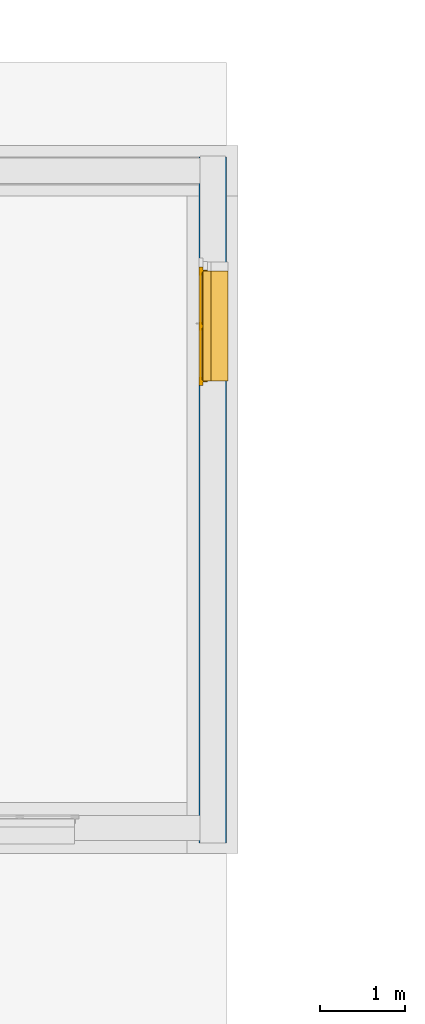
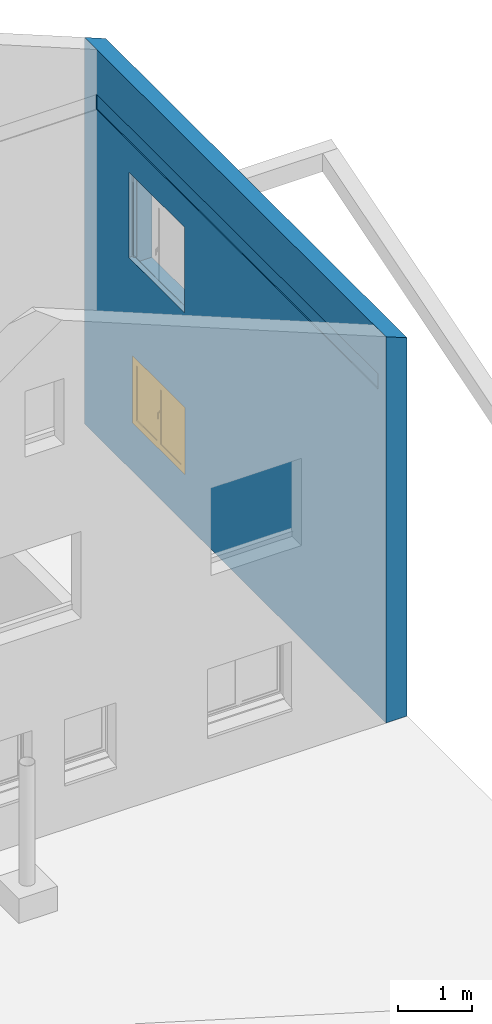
# One storey, part 5 of 20: 1 wall, 1 window, 3 openings.
"""IFC2X3 building model written with IfcOpenShell, lengths in metres."""

from ifc_helpers import new_model, entity, si_unit, converted_unit, derived_unit, direction, frame, frame_2d, origin, place, context, subcontext, project, spatial, polyline, rectangle, extrude, clip, bounded_halfspace, faceted_brep, source, transform, mapped, material, material_list, layer, layer_set, layer_usage, type_object, type_shapes, element, fill, save


model = new_model("IFC2X3")

# Units and contexts
model_context = context("Model", 3, precision=1e-05, world=origin(), true_north=direction((6.12303176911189e-17, 1.0)))
body_context = subcontext(model_context, "Body", "Model", "MODEL_VIEW")
ifc_project = project(units=[si_unit("LENGTHUNIT", "METRE"), si_unit("AREAUNIT", "SQUARE_METRE"), si_unit("VOLUMEUNIT", "CUBIC_METRE"), converted_unit("PLANEANGLEUNIT", "DEGREE", entity("IfcRatioMeasure", 0.0174532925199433), si_unit("PLANEANGLEUNIT", "RADIAN"), dimensions=[0, 0, 0, 0, 0, 0, 0]), si_unit("MASSUNIT", "GRAM", prefix="KILO"), derived_unit("MASSDENSITYUNIT", [(si_unit("MASSUNIT", "GRAM", prefix="KILO"), 1), (si_unit("LENGTHUNIT", "METRE"), -3)]), derived_unit("MOMENTOFINERTIAUNIT", [(si_unit("LENGTHUNIT", "METRE"), 4)]), si_unit("TIMEUNIT", "SECOND"), si_unit("FREQUENCYUNIT", "HERTZ"), si_unit("THERMODYNAMICTEMPERATUREUNIT", "DEGREE_CELSIUS"), derived_unit("THERMALTRANSMITTANCEUNIT", [(si_unit("MASSUNIT", "GRAM", prefix="KILO"), 1), (si_unit("THERMODYNAMICTEMPERATUREUNIT", "KELVIN"), -1), (si_unit("TIMEUNIT", "SECOND"), -3)]), derived_unit("VOLUMETRICFLOWRATEUNIT", [(si_unit("LENGTHUNIT", "METRE"), 3), (si_unit("TIMEUNIT", "SECOND"), -1)]), si_unit("ELECTRICCURRENTUNIT", "AMPERE"), si_unit("ELECTRICVOLTAGEUNIT", "VOLT"), si_unit("POWERUNIT", "WATT"), si_unit("FORCEUNIT", "NEWTON", prefix="KILO"), si_unit("ILLUMINANCEUNIT", "LUX"), si_unit("LUMINOUSFLUXUNIT", "LUMEN"), si_unit("LUMINOUSINTENSITYUNIT", "CANDELA"), derived_unit("USERDEFINED", [(si_unit("MASSUNIT", "GRAM", prefix="KILO"), -1), (si_unit("LENGTHUNIT", "METRE"), -2), (si_unit("TIMEUNIT", "SECOND"), 3), (si_unit("LUMINOUSFLUXUNIT", "LUMEN"), 1)]), derived_unit("LINEARVELOCITYUNIT", [(si_unit("LENGTHUNIT", "METRE"), 1), (si_unit("TIMEUNIT", "SECOND"), -1)]), si_unit("PRESSUREUNIT", "PASCAL"), derived_unit("USERDEFINED", [(si_unit("LENGTHUNIT", "METRE"), -2), (si_unit("MASSUNIT", "GRAM", prefix="KILO"), 1), (si_unit("TIMEUNIT", "SECOND"), -2)]), derived_unit("LINEARFORCEUNIT", [(si_unit("MASSUNIT", "GRAM", prefix="KILO"), 1), (si_unit("LENGTHUNIT", "METRE"), 1), (si_unit("TIMEUNIT", "SECOND"), -2), (si_unit("LENGTHUNIT", "METRE"), -1)]), derived_unit("PLANARFORCEUNIT", [(si_unit("MASSUNIT", "GRAM", prefix="KILO"), 1), (si_unit("LENGTHUNIT", "METRE"), 1), (si_unit("TIMEUNIT", "SECOND"), -2), (si_unit("LENGTHUNIT", "METRE"), -2)])], contexts=[model_context])

# Site, building, storey
site_placement = place(None, origin())
site = spatial("IfcSite", under=ifc_project, at=site_placement, Name="Surface", CompositionType="ELEMENT")
building_placement = place(site_placement, origin())
building = spatial("IfcBuilding", under=site, at=building_placement, CompositionType="ELEMENT")
storey_placement = place(building_placement, origin())
storey = spatial("IfcBuildingStorey", under=building, at=storey_placement, Name="Niveau rdc", CompositionType="ELEMENT", Elevation=-1.94916083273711e-14)

# Wall, openings, window
ifc_material_1 = material(Name="Maçonnerie - Isolant")
ifc_layer_1 = layer(ifc_material_1, 0.015)
ifc_material_2 = material(Name="Blocs briques monomur")
ifc_layer_2 = layer(ifc_material_2, 0.3)
ifc_layer_3 = layer(ifc_material_1, 0.015)
ifc_layer_set = layer_set([ifc_layer_1, ifc_layer_2, ifc_layer_3], Name="Mur de base:bloc monomur30")
ifc_layer_usage = layer_usage(ifc_layer_set, "AXIS2", "POSITIVE", -0.165)
wall_type = type_object("IfcWallType", Name="Mur de base:bloc monomur30", PredefinedType="STANDARD", material=ifc_layer_set)
wall_placement = place(storey_placement, frame((12.6193960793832, 7.33925810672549, 0.0), z_axis=(0.0, 0.0, 1.0), x_axis=(0.0, -1.0, 0.0)))
wall = element("IfcWallStandardCase", 1, at=wall_placement, inside=storey, type_object=wall_type, material=ifc_layer_usage, Name="Mur de base:bloc monomur30", ObjectType="Mur de base:bloc monomur30", context=body_context, shape_type="Clipping", body=[
    clip(extrude(rectangle(XDim=8.095, YDim=0.329999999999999, at=frame_2d((4.0475, -6.93889390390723e-17), x_axis=(-1.0, 0.0))), origin(), (0.0, 0.0, 1.0), 6.33642179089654), bounded_halfspace(frame((0.0, -0.165000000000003, 6.33642179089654), z_axis=(0.0, 0.374606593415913, 0.927183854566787), x_axis=(-1.0, 0.0, 0.0)), False, frame((0.0, -0.165000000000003, 6.33642179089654)), polyline([(0.0, 0.0), (0.33, 0.0), (3.94, 0.0), (4.14, 0.0), (7.765, 0.0), (8.095, 0.0), (8.095, 0.330000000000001), (0.0, 0.330000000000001), (0.0, 0.0)]))),
])
opening_1_placement = place(storey_placement, frame((12.6193960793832, 7.33925810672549, 0.0), z_axis=(0.0, 0.0, 1.0), x_axis=(0.0, -1.0, 0.0)))
element("IfcOpeningElement", 2, at=opening_1_placement, cuts=wall, Name="Mur de base:bloc monomur30:1", ObjectType="Opening", context=body_context, shape_type="SweptSolid", body=[
    extrude(rectangle(XDim=7.57500000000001, YDim=0.0150000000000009, at=frame_2d((0.0568749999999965, -0.00375000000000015), x_axis=(1.0, 0.0))), frame((4.159375, -0.161250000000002, 5.35000000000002), z_axis=(0.0, 0.0, 1.0), x_axis=(-1.0, 0.0, 0.0)), (0.0, 0.0, 1.0), 0.249999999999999),
])
opening_2_placement = place(wall_placement, frame((2.695, -0.500000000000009, 0.72), z_axis=(0.0, 0.0, 1.0), x_axis=(0.0, 1.0, 0.0)))
opening_2 = element("IfcOpeningElement", 3, at=opening_2_placement, cuts=wall, Name="Mur de base:bloc monomur30", ObjectType="Opening", context=body_context, shape_type="Brep", body=[
    faceted_brep([(0.41499999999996, 1.35, 0.0800000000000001), (0.435000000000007, 1.35, 0.0800000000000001), (0.435000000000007, 1.35, 1.13), (1.0, 1.35, 1.13), (1.0, 1.35, 0.0), (0.41499999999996, 1.35, 0.0), (0.0, 0.0500000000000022, 0.0800000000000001), (0.335000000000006, 0.0500000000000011, 0.0800000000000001), (0.335000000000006, 0.0500000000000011, 1.13), (0.0, 0.0500000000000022, 1.13), (0.0, 1.35, 0.0800000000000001), (0.335000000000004, 1.35, 0.0800000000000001), (0.335000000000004, 1.4, 0.0800000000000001), (0.385000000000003, 1.4, 0.0800000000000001), (0.385000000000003, 1.36, 0.0800000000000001), (0.435000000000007, 1.36, 0.0800000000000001), (0.414999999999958, 0.0500000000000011, 0.0800000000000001), (0.435000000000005, 0.0500000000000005, 0.0800000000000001), (0.435000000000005, 0.0400000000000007, 0.0800000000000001), (0.385000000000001, 0.0400000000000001, 0.0800000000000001), (0.385000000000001, 0.0, 0.0800000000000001), (0.335000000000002, 0.0, 0.0800000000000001), (0.0, 1.35, 1.13), (0.435000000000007, 0.0500000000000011, 1.13), (1.0, 0.0499999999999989, 1.13), (1.0, 0.0499999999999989, 0.0), (0.414999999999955, 0.0500000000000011, 0.0), (0.335000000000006, 1.4, 1.18), (0.385000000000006, 1.4, 1.18), (0.385000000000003, 0.0, 1.18), (0.385000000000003, 0.0400000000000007, 1.14), (0.385000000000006, 1.36, 1.14), (0.435000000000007, 1.36, 1.14), (0.435000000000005, 0.0400000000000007, 1.14), (0.335000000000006, 1.35, 1.13), (0.335000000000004, 0.0, 1.18)], [[[0, 1, 2, 3, 4, 5]], [[6, 7, 8, 9]], [[10, 11, 12, 13, 14, 15, 1, 0, 16, 17, 18, 19, 20, 21, 7, 6]], [[10, 6, 9, 22]], [[3, 2, 23, 24]], [[3, 24, 25, 4]], [[4, 25, 26, 5]], [[5, 26, 16, 0]], [[12, 27, 28, 13]], [[13, 28, 29, 20, 19, 30, 31, 14]], [[14, 31, 32, 15]], [[15, 32, 33, 18, 17, 23, 2, 1]], [[11, 34, 8, 7, 21, 35, 27, 12]], [[27, 35, 29, 28]], [[30, 33, 32, 31]], [[29, 35, 21, 20]], [[19, 18, 33, 30]], [[9, 8, 34, 22]], [[24, 23, 17, 16, 26, 25]], [[22, 34, 11, 10]]]),
])
opening_3_placement = place(wall_placement, frame((2.69, -0.500000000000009, 3.37), z_axis=(0.0, 0.0, 1.0), x_axis=(0.0, 1.0, 0.0)))
element("IfcOpeningElement", 4, at=opening_3_placement, cuts=wall, Name="Mur de base:bloc monomur30", ObjectType="Opening", context=body_context, shape_type="Brep", body=[
    faceted_brep([(0.41499999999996, 1.45, 0.0800000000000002), (0.435000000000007, 1.45, 0.0800000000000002), (0.435000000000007, 1.45, 1.43), (1.0, 1.45, 1.43), (1.0, 1.45, 0.0), (0.41499999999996, 1.45, 0.0), (0.0, 0.0500000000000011, 0.0800000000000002), (0.335000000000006, 0.05, 0.0800000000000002), (0.335000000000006, 0.05, 1.43), (0.0, 0.0500000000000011, 1.43), (0.0, 1.45, 0.0800000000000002), (0.335000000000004, 1.45, 0.0800000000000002), (0.335000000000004, 1.5, 0.0800000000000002), (0.385000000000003, 1.5, 0.0800000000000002), (0.385000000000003, 1.46, 0.0800000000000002), (0.435000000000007, 1.46, 0.0800000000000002), (0.414999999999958, 0.05, 0.0799999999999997), (0.435000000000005, 0.0499999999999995, 0.0800000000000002), (0.435000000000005, 0.0399999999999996, 0.0800000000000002), (0.385000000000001, 0.0399999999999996, 0.0800000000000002), (0.385000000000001, 0.0, 0.0800000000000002), (0.335000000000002, 0.0, 0.0800000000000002), (0.0, 1.45, 1.43), (0.435000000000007, 0.05, 1.43), (1.0, 0.0499999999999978, 1.43), (1.0, 0.0499999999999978, 0.0), (0.414999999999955, 0.05, 0.0), (0.335000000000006, 1.5, 1.48), (0.385000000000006, 1.5, 1.48), (0.385000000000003, 0.0, 1.48), (0.385000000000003, 0.0399999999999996, 1.44), (0.385000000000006, 1.46, 1.44), (0.435000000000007, 1.46, 1.44), (0.435000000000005, 0.0399999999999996, 1.44), (0.335000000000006, 1.45, 1.43), (0.335000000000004, 0.0, 1.48)], [[[0, 1, 2, 3, 4, 5]], [[6, 7, 8, 9]], [[10, 11, 12, 13, 14, 15, 1, 0, 16, 17, 18, 19, 20, 21, 7, 6]], [[10, 6, 9, 22]], [[3, 2, 23, 24]], [[3, 24, 25, 4]], [[4, 25, 26, 5]], [[5, 26, 16, 0]], [[12, 27, 28, 13]], [[13, 28, 29, 20, 19, 30, 31, 14]], [[14, 31, 32, 15]], [[15, 32, 33, 18, 17, 23, 2, 1]], [[11, 34, 8, 7, 21, 35, 27, 12]], [[27, 35, 29, 28]], [[30, 33, 32, 31]], [[29, 35, 21, 20]], [[19, 18, 33, 30]], [[9, 8, 34, 22]], [[24, 23, 17, 16, 26, 25]], [[22, 34, 11, 10]]]),
])
ifc_material_3 = material(Name="Fenêtre - Poignée")
ifc_material_4 = material(Name="Fenêtre - Appui")
ifc_material_5 = material(Name="Fenêtre - Cadre(1)")
ifc_material_6 = material(Name="Fenêtre - Vitrage")
ifc_material_7 = material(Name="Fenêtre - Cadre")
ifc_material_list_1 = material_list([ifc_material_3, ifc_material_4, ifc_material_5, ifc_material_6, ifc_material_7])
ifc_material_8 = material(Name="Volets - Bois")
ifc_material_list_2 = material_list([ifc_material_8, ifc_material_5, ifc_material_4, ifc_material_7, ifc_material_6, ifc_material_3])
window_style = type_object("IfcWindowStyle", Name="2 Vantaux droits - Volets et petits bois:1.30m x 1.05m - Appui Béton", ConstructionType="NOTDEFINED", OperationType="DOUBLE_PANEL_VERTICAL", ParameterTakesPrecedence=False, Sizeable=False, material=ifc_material_list_2)
shared_shape = source(origin(), body_context, "Body", "Brep", [
    faceted_brep([(0.730646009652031, -0.67100000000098, 0.702033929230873), (0.732033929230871, -0.67100000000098, 0.700646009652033), (0.732033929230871, -0.67100000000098, 0.689332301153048), (0.730667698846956, -0.67100000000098, 0.687966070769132), (0.719332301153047, -0.67100000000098, 0.687966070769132), (0.717966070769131, -0.67100000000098, 0.689332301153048), (0.717966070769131, -0.67100000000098, 0.700646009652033), (0.719353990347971, -0.67100000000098, 0.702033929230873), (0.730646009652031, -0.683913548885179, 0.702033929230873), (0.732033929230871, -0.68333865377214, 0.700646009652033), (0.732033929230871, -0.69664600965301, 0.687338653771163), (0.732033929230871, -0.69664600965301, 0.600000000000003), (0.732033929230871, -0.685332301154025, 0.600000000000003), (0.732033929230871, -0.685332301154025, 0.682652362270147), (0.732033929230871, -0.678652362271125, 0.689332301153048), (0.730667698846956, -0.678086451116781, 0.687966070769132), (0.719332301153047, -0.678086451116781, 0.687966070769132), (0.717966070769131, -0.678652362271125, 0.689332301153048), (0.717966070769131, -0.685332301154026, 0.682652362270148), (0.717966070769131, -0.685332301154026, 0.600000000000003), (0.717966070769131, -0.69664600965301, 0.600000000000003), (0.717966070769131, -0.69664600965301, 0.687338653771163), (0.717966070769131, -0.68333865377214, 0.700646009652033), (0.719353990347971, -0.683913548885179, 0.702033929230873), (0.730646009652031, -0.69803392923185, 0.687913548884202), (0.730667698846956, -0.68396607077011, 0.682086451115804), (0.719332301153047, -0.68396607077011, 0.682086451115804), (0.719353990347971, -0.69803392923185, 0.687913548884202), (0.730646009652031, -0.69803392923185, 0.600000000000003), (0.719353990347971, -0.69803392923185, 0.600000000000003), (0.719332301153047, -0.68396607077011, 0.600000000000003), (0.730667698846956, -0.68396607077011, 0.600000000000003)], [[[0, 1, 2, 3, 4, 5, 6, 7]], [[1, 0, 8, 9]], [[2, 1, 9, 10, 11, 12, 13, 14]], [[3, 2, 14, 15]], [[4, 3, 15, 16]], [[5, 4, 16, 17]], [[6, 5, 17, 18, 19, 20, 21, 22]], [[7, 6, 22, 23]], [[0, 7, 23, 8]], [[9, 8, 24, 10]], [[15, 14, 13, 25]], [[16, 15, 25, 26]], [[17, 16, 26, 18]], [[23, 22, 21, 27]], [[8, 23, 27, 24]], [[28, 29, 20, 19, 30, 31, 12, 11]], [[10, 24, 28, 11]], [[25, 13, 12, 31]], [[26, 25, 31, 30]], [[18, 26, 30, 19]], [[27, 21, 20, 29]], [[24, 27, 29, 28]]]),
    faceted_brep([(0.732000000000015, -0.671000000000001, 0.72), (0.718, -0.671000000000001, 0.72), (0.713, -0.671000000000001, 0.715000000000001), (0.713, -0.671000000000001, 0.644999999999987), (0.717999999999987, -0.671000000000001, 0.639999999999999), (0.732000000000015, -0.671000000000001, 0.639999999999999), (0.737000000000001, -0.671000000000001, 0.644999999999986), (0.737000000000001, -0.671000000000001, 0.715000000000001), (0.732000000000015, -0.665000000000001, 0.72), (0.737000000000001, -0.665000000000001, 0.715000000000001), (0.737000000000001, -0.665000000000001, 0.644999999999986), (0.732000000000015, -0.665000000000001, 0.639999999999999), (0.717999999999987, -0.665000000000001, 0.639999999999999), (0.713, -0.665000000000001, 0.644999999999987), (0.713, -0.665000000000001, 0.715000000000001), (0.718, -0.665000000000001, 0.72)], [[[0, 1, 2, 3, 4, 5, 6, 7]], [[8, 9, 10, 11, 12, 13, 14, 15]], [[1, 0, 8, 15]], [[2, 1, 15, 14]], [[3, 2, 14, 13]], [[4, 3, 13, 12]], [[5, 4, 12, 11]], [[6, 5, 11, 10]], [[7, 6, 10, 9]], [[0, 7, 9, 8]]]),
    faceted_brep([(0.0499999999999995, -0.584999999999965, 0.0799999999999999), (0.0499999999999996, -0.534999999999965, 0.0799999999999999), (0.0499999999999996, -0.534999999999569, 0.0650000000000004), (0.05, -0.319999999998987, 0.0424025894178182), (0.05, -0.319999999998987, 0.0), (0.0499999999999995, -0.584999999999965, 0.0), (1.35, -0.584999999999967, 0.0799999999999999), (1.35, -0.584999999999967, 0.0), (1.35, -0.319999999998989, 0.0), (1.35, -0.319999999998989, 0.0424025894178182), (1.35, -0.534999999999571, 0.0650000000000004), (1.35, -0.534999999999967, 0.0799999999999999)], [[[0, 1, 2, 3, 4, 5]], [[6, 7, 8, 9, 10, 11]], [[1, 0, 6, 11]], [[2, 1, 11, 10]], [[3, 2, 10, 9]], [[4, 3, 9, 8]], [[5, 4, 8, 7]], [[0, 5, 7, 6]]]),
    faceted_brep([(0.699999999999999, -0.624999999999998, 1.13), (0.699999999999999, -0.66499999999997, 1.13), (0.699999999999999, -0.664999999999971, 0.13), (0.699999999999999, -0.624999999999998, 0.13), (0.0499999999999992, -0.664999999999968, 0.13), (0.0499999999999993, -0.624999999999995, 0.13), (0.0499999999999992, -0.664999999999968, 1.13), (0.0999999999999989, -0.664999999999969, 0.18), (0.0999999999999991, -0.664999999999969, 1.08), (0.649999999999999, -0.66499999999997, 1.08), (0.649999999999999, -0.66499999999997, 0.18), (0.0499999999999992, -0.624999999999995, 1.13), (0.649999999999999, -0.624999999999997, 0.18), (0.649999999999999, -0.624999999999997, 1.08), (0.0999999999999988, -0.624999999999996, 1.08), (0.0999999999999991, -0.624999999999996, 0.18)], [[[0, 1, 2, 3]], [[3, 2, 4, 5]], [[2, 1, 6, 4], [7, 8, 9, 10]], [[5, 4, 6, 11]], [[5, 11, 0, 3], [12, 13, 14, 15]], [[9, 13, 12, 10]], [[10, 12, 15, 7]], [[7, 15, 14, 8]], [[11, 6, 1, 0]], [[8, 14, 13, 9]]]),
    faceted_brep([(0.749999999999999, -0.639000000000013, 0.18), (0.749999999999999, -0.639000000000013, 1.08), (1.3, -0.639000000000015, 1.08), (1.3, -0.639000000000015, 0.18), (0.749999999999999, -0.651000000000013, 0.18), (0.749999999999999, -0.651000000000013, 1.08), (1.3, -0.651000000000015, 1.08), (1.3, -0.651000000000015, 0.18)], [[[0, 1, 2, 3]], [[1, 0, 4, 5]], [[3, 2, 6, 7]], [[0, 3, 7, 4]], [[2, 1, 5, 6]], [[4, 7, 6, 5]]]),
    faceted_brep([(0.65, -0.639000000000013, 0.18), (0.649999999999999, -0.639000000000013, 1.08), (0.649999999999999, -0.651000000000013, 1.08), (0.649999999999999, -0.651000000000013, 0.18), (0.0999999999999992, -0.639000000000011, 0.18), (0.0999999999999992, -0.651000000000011, 0.18), (0.0999999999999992, -0.639000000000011, 1.08), (0.0999999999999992, -0.651000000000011, 1.08)], [[[0, 1, 2, 3]], [[4, 0, 3, 5]], [[6, 4, 5, 7]], [[7, 5, 3, 2]], [[1, 6, 7, 2]], [[6, 1, 0, 4]]]),
    faceted_brep([(0.75, -0.625000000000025, 1.08), (0.75, -0.665000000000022, 1.08), (0.749999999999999, -0.665000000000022, 0.18), (0.75, -0.625000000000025, 0.18), (1.3, -0.665000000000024, 0.18), (1.3, -0.625000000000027, 0.18), (1.3, -0.665000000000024, 1.08), (1.35, -0.665000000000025, 0.130000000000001), (1.35, -0.665000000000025, 1.13), (0.7, -0.665000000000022, 1.13), (0.7, -0.665000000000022, 0.130000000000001), (1.3, -0.625000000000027, 1.08), (0.7, -0.625000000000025, 0.130000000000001), (0.7, -0.625000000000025, 1.13), (1.35, -0.625000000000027, 1.13), (1.35, -0.625000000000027, 0.130000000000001)], [[[0, 1, 2, 3]], [[3, 2, 4, 5]], [[2, 1, 6, 4], [7, 8, 9, 10]], [[5, 4, 6, 11]], [[5, 11, 0, 3], [12, 13, 14, 15]], [[9, 13, 12, 10]], [[10, 12, 15, 7]], [[7, 15, 14, 8]], [[11, 6, 1, 0]], [[8, 14, 13, 9]]], outer=[[True], [True], [False, True], [True], [False, True], [True], [True], [True], [True], [True]]),
    faceted_brep([(0.0, -0.665000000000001, 0.0799999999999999), (0.0, -0.615000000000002, 0.0799999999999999), (0.0499999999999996, -0.615000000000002, 0.0799999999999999), (0.0499999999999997, -0.530000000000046, 0.0799999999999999), (1.35, -0.530000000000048, 0.0800000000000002), (1.35, -0.615000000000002, 0.0799999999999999), (1.4, -0.615000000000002, 0.0799999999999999), (1.4, -0.665000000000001, 0.0799999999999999), (0.0, -0.665000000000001, 1.18), (0.0, -0.615000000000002, 1.18), (1.4, -0.615000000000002, 1.18), (1.35, -0.615000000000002, 0.119376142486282), (0.0499999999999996, -0.615000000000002, 0.119376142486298), (0.0649999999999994, -0.615000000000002, 1.115), (0.0649999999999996, -0.615000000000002, 0.145), (1.335, -0.615000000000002, 0.145), (1.335, -0.615000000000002, 1.115), (0.0499999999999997, -0.520000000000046, 0.0939209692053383), (0.0499999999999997, -0.520000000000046, 0.0749999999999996), (0.0499999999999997, -0.530000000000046, 0.0749999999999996), (1.35, -0.530000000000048, 0.0749999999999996), (1.35, -0.520000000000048, 0.0749999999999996), (1.35, -0.520000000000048, 0.0939209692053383), (1.4, -0.665000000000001, 1.18), (1.35, -0.665000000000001, 1.13), (1.35, -0.665000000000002, 0.13), (0.0499999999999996, -0.665000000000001, 0.13), (0.0499999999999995, -0.665000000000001, 1.13), (0.0649999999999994, -0.625000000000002, 1.115), (0.0649999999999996, -0.625000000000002, 0.145), (1.335, -0.625000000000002, 0.145), (1.335, -0.625000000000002, 1.115), (1.35, -0.625000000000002, 1.13), (0.0499999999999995, -0.625000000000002, 1.13), (0.0499999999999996, -0.625000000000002, 0.13), (1.35, -0.625000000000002, 0.13)], [[[0, 1, 2, 3, 4, 5, 6, 7]], [[1, 0, 8, 9]], [[1, 9, 10, 6, 5, 11, 12, 2], [13, 14, 15, 16]], [[12, 17, 18, 19, 3, 2]], [[3, 19, 20, 4]], [[4, 20, 21, 22, 11, 5]], [[6, 10, 23, 7]], [[0, 7, 23, 8], [24, 25, 26, 27]], [[13, 28, 29, 14]], [[29, 30, 15, 14]], [[31, 16, 15, 30]], [[17, 12, 11, 22]], [[32, 33, 34, 35], [28, 31, 30, 29]], [[34, 33, 27, 26]], [[26, 25, 35, 34]], [[24, 32, 35, 25]], [[18, 17, 22, 21]], [[19, 18, 21, 20]], [[13, 16, 31, 28]], [[33, 32, 24, 27]], [[10, 9, 8, 23]]]),
    faceted_brep([(0.0499999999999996, -0.565, 0.0799999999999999), (0.0499999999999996, -0.615000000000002, 0.0799999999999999), (0.0399999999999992, -0.615000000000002, 0.0799999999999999), (0.0399999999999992, -0.565, 0.0799999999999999), (0.0499999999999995, -0.565, 1.13), (0.0499999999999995, -0.615000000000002, 1.13), (1.35, -0.615000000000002, 1.13), (1.35, -0.615000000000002, 0.0799999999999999), (1.36, -0.615000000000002, 0.0799999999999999), (1.36, -0.615000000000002, 1.14), (0.0399999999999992, -0.615000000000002, 1.14), (0.0399999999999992, -0.565, 1.14), (1.36, -0.565, 1.14), (1.36, -0.565, 0.0799999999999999), (1.35, -0.565, 0.0799999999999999), (1.35, -0.565, 1.13)], [[[0, 1, 2, 3]], [[1, 0, 4, 5]], [[2, 1, 5, 6, 7, 8, 9, 10]], [[3, 2, 10, 11]], [[0, 3, 11, 12, 13, 14, 15, 4]], [[6, 15, 14, 7]], [[14, 13, 8, 7]], [[12, 9, 8, 13]], [[5, 4, 15, 6]], [[11, 10, 9, 12]]]),
    faceted_brep([(0.72, -0.617000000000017, 1.115), (0.679999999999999, -0.617000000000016, 1.115), (0.679999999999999, -0.625000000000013, 1.115), (0.719999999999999, -0.625000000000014, 1.115), (0.72, -0.617000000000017, 0.145), (0.719999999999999, -0.625000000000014, 0.145), (0.679999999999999, -0.625000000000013, 0.145), (0.679999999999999, -0.617000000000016, 0.145)], [[[0, 1, 2, 3]], [[4, 5, 6, 7]], [[1, 0, 4, 7]], [[2, 1, 7, 6]], [[3, 2, 6, 5]], [[0, 3, 5, 4]]]),
])
type_shapes(window_style, [shared_shape])
window_placement = place(opening_2_placement, frame((1.0, 1.4, 0.0), z_axis=(0.0, 0.0, 1.0), x_axis=(0.0, -1.0, 0.0)))
window = element("IfcWindow", 5, at=window_placement, inside=storey, type_object=window_style, material=ifc_material_list_1, Name="2 Vantaux droits - Volets et petits bois:1.30m x 1.05m - Appui Béton", ObjectType="2 Vantaux droits - Volets et petits bois:1.30m x 1.05m - Appui Béton", OverallHeight=1.18, OverallWidth=1.4, context=body_context, shape_type="MappedRepresentation", body=[
    mapped(shared_shape, transform((0.0, 0.0, 0.0), scale=1.0)),
])
fill(opening_2, window)

save(model, "model.ifc")
